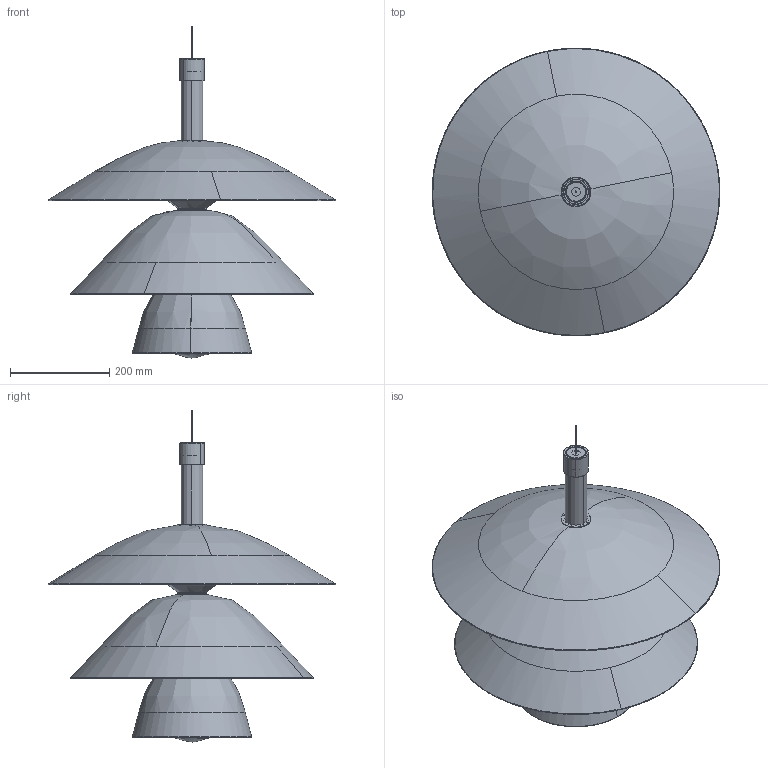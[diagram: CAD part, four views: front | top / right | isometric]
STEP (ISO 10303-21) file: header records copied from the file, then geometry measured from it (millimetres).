
FILE_DESCRIPTION(/* description */ (''),/* implementation_level */ '2;1');
FILE_NAME(/* name */ 'SEM.000220',/* time_stamp */ '2023-05-11T16:03:46+02:00',/* author */ (''),/* organization */ (''),/* preprocessor_version */ 'ST-DEVELOPER v16.5',/* originating_system */ 'Rhino 7.29',/* authorisation */ '');
FILE_SCHEMA (('CONFIG_CONTROL_DESIGN'));
Length unit declared in the file: millimetre
Products named in the file (11): Document; MET.006349; PLA.005260; MET.005642; VET.005135; VET.005128; PLA.005261; PLA.005262; VET.005126; VET.005123; VET.005125
Assembly tree (19 placements, depth 2):
  Document
    MET.006349
    PLA.005260
    MET.005642
    VET.005135
    VET.005128
    PLA.005261  x7
    PLA.005262  x3
    VET.005126
    VET.005123  x2
    VET.005125
Bounding box: 579.92 x 580.06 x 669.41 mm (x, y, z)
Volume: 2664637 mm3; surface area: 1851749 mm2
Topology: 21 solids, 22 shells, 1043 faces, 2462 edges, 1392 vertices
Faces by surface type: bspline 830, cylinder 146, plane 67
Entity records: 18008 total; most frequent: CARTESIAN_POINT 12533, ORIENTED_EDGE 1484, EDGE_CURVE 744, VERTEX_POINT 474, EDGE_LOOP 336, ADVANCED_FACE 307, FACE_OUTER_BOUND 307, B_SPLINE_CURVE_WITH_KNOTS 224
